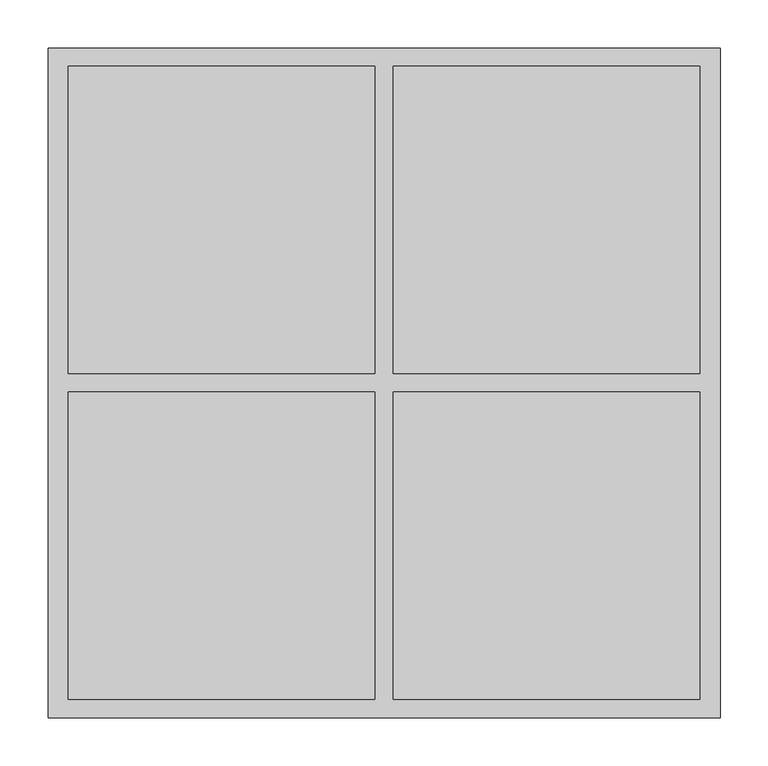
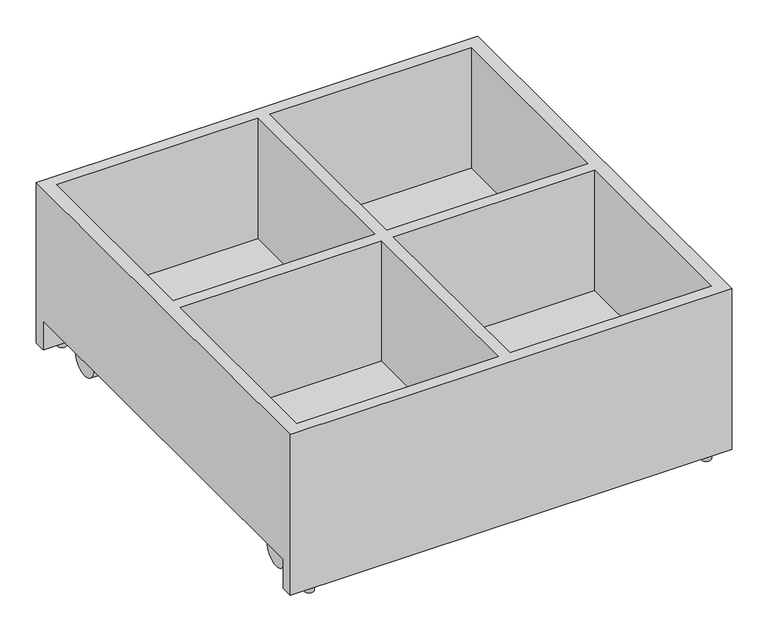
"""IFC4 building model written with IfcOpenShell, lengths in millimetres: furniture geometry, BK Library - Ella - Double Small : BK Library - Ella - Double Small."""

from ifc_helpers import new_model, si_unit, point, frame, frame_2d, origin, place, context, project, spatial, polyline, circle_curve, trimmed, segment, composite_curve, outline, extrude, faceted_brep, source, transform, mapped, element, save
from ifc_brep_helpers import plane_surface, cylinder_surface, advanced_brep


def furniture_43385f6e(model_context):
    return source(origin(), model_context, "Body", "SolidModel", [
        extrude(outline(composite_curve([segment(polyline([(-315.0, 300.0), (-283.0, 300.0)]), True, "CONTINUOUS"), segment(trimmed(circle_curve(frame_2d((-283.0, 295.0)), 5.0), [point((-283.0, 300.0))], [point((-278.0, 295.0))], False, "CARTESIAN"), True, "CONTINUOUS"), segment(polyline([(-278.0, 295.0), (-278.0, 263.0)]), True, "CONTINUOUS"), segment(trimmed(circle_curve(frame_2d((-283.0, 263.0)), 5.0), [point((-278.0, 263.0))], [point((-283.0, 258.0))], False, "CARTESIAN"), True, "CONTINUOUS"), segment(polyline([(-283.0, 258.0), (-315.0, 258.0)]), True, "CONTINUOUS"), segment(trimmed(circle_curve(frame_2d((-315.0, 263.0)), 5.0), [point((-315.0, 258.0))], [point((-320.0, 263.0))], False, "CARTESIAN"), True, "CONTINUOUS"), segment(polyline([(-320.0, 263.0), (-320.0, 295.0)]), True, "CONTINUOUS"), segment(trimmed(circle_curve(frame_2d((-315.0, 295.0)), 5.0), [point((-320.0, 295.0))], [point((-315.0, 300.0))], False, "CARTESIAN"), True, "CONTINUOUS")], self_intersect=False)), frame((0.0, 0.0, 57.5227299), z_axis=(0.0, 0.0, 1.0), x_axis=(1.0, 0.0, 0.0)), (0.0, 0.0, 1.0), 3.0),
        extrude(outline(composite_curve([segment(trimmed(circle_curve(frame_2d((315.0, 295.0)), 5.0), [point((315.0, 300.0))], [point((320.0, 295.0))], False, "CARTESIAN"), True, "CONTINUOUS"), segment(polyline([(320.0, 295.0), (320.0, 263.0)]), True, "CONTINUOUS"), segment(trimmed(circle_curve(frame_2d((315.0, 263.0)), 5.0), [point((320.0, 263.0))], [point((315.0, 258.0))], False, "CARTESIAN"), True, "CONTINUOUS"), segment(polyline([(315.0, 258.0), (283.0, 258.0)]), True, "CONTINUOUS"), segment(trimmed(circle_curve(frame_2d((283.0, 263.0)), 5.0), [point((283.0, 258.0))], [point((278.0, 263.0))], False, "CARTESIAN"), True, "CONTINUOUS"), segment(polyline([(278.0, 263.0), (278.0, 295.0)]), True, "CONTINUOUS"), segment(trimmed(circle_curve(frame_2d((283.0, 295.0)), 5.0), [point((278.0, 295.0))], [point((283.0, 300.0))], False, "CARTESIAN"), True, "CONTINUOUS"), segment(polyline([(283.0, 300.0), (315.0, 300.0)]), True, "CONTINUOUS")], self_intersect=False)), frame((0.0, 0.0, 57.5227299), z_axis=(0.0, 0.0, 1.0), x_axis=(1.0, 0.0, 0.0)), (0.0, 0.0, 1.0), 3.0),
        extrude(outline(composite_curve([segment(polyline([(315.0, -300.0), (283.0, -300.0)]), True, "CONTINUOUS"), segment(trimmed(circle_curve(frame_2d((283.0, -295.0)), 5.0), [point((283.0, -300.0))], [point((278.0, -295.0))], False, "CARTESIAN"), True, "CONTINUOUS"), segment(polyline([(278.0, -295.0), (278.0, -263.0)]), True, "CONTINUOUS"), segment(trimmed(circle_curve(frame_2d((283.0, -263.0)), 5.0), [point((278.0, -263.0))], [point((283.0, -258.0))], False, "CARTESIAN"), True, "CONTINUOUS"), segment(polyline([(283.0, -258.0), (315.0, -258.0)]), True, "CONTINUOUS"), segment(trimmed(circle_curve(frame_2d((315.0, -263.0)), 5.0), [point((315.0, -258.0))], [point((320.0, -263.0))], False, "CARTESIAN"), True, "CONTINUOUS"), segment(polyline([(320.0, -263.0), (320.0, -295.0)]), True, "CONTINUOUS"), segment(trimmed(circle_curve(frame_2d((315.0, -295.0)), 5.0), [point((320.0, -295.0))], [point((315.0, -300.0))], False, "CARTESIAN"), True, "CONTINUOUS")], self_intersect=False)), frame((0.0, 0.0, 57.5227299), z_axis=(0.0, 0.0, 1.0), x_axis=(1.0, 0.0, 0.0)), (0.0, 0.0, 1.0), 3.0),
        extrude(outline(composite_curve([segment(trimmed(circle_curve(frame_2d((-315.0, -295.0)), 5.0), [point((-315.0, -300.0))], [point((-320.0, -295.0))], False, "CARTESIAN"), True, "CONTINUOUS"), segment(polyline([(-320.0, -295.0), (-320.0, -263.0)]), True, "CONTINUOUS"), segment(trimmed(circle_curve(frame_2d((-315.0, -263.0)), 5.0), [point((-320.0, -263.0))], [point((-315.0, -258.0))], False, "CARTESIAN"), True, "CONTINUOUS"), segment(polyline([(-315.0, -258.0), (-283.0, -258.0)]), True, "CONTINUOUS"), segment(trimmed(circle_curve(frame_2d((-283.0, -263.0)), 5.0), [point((-283.0, -258.0))], [point((-278.0, -263.0))], False, "CARTESIAN"), True, "CONTINUOUS"), segment(polyline([(-278.0, -263.0), (-278.0, -295.0)]), True, "CONTINUOUS"), segment(trimmed(circle_curve(frame_2d((-283.0, -295.0)), 5.0), [point((-278.0, -295.0))], [point((-283.0, -300.0))], False, "CARTESIAN"), True, "CONTINUOUS"), segment(polyline([(-283.0, -300.0), (-315.0, -300.0)]), True, "CONTINUOUS")], self_intersect=False)), frame((0.0, 0.0, 57.5227299), z_axis=(0.0, 0.0, 1.0), x_axis=(1.0, 0.0, 0.0)), (0.0, 0.0, 1.0), 3.0),
        extrude(outline(composite_curve([segment(trimmed(circle_curve(frame_2d((-315.0699503, -339.5817688)), 7.5), [point((-322.5699503, -339.5817688))], [point((-307.5699503, -339.5817688))], False, "CARTESIAN"), True, "CONTINUOUS"), segment(trimmed(circle_curve(frame_2d((-315.0699503, -339.5817688)), 7.5), [point((-307.5699503, -339.5817688))], [point((-322.5699503, -339.5817688))], False, "CARTESIAN"), True, "CONTINUOUS")], self_intersect=False)), frame((0.0, 0.0, 3.0227299), z_axis=(0.0, 0.0, 1.0), x_axis=(1.0, 0.0, 0.0)), (0.0, 0.0, 1.0), 8.5),
        extrude(outline(composite_curve([segment(trimmed(circle_curve(frame_2d((315.0699503, -339.5817688)), 7.5), [point((307.5699503, -339.5817688))], [point((322.5699503, -339.5817688))], False, "CARTESIAN"), True, "CONTINUOUS"), segment(trimmed(circle_curve(frame_2d((315.0699503, -339.5817688)), 7.5), [point((322.5699503, -339.5817688))], [point((307.5699503, -339.5817688))], False, "CARTESIAN"), True, "CONTINUOUS")], self_intersect=False)), frame((0.0, 0.0, 3.0227299), z_axis=(0.0, 0.0, 1.0), x_axis=(1.0, 0.0, 0.0)), (0.0, 0.0, 1.0), 8.5),
        extrude(outline(composite_curve([segment(trimmed(circle_curve(frame_2d((-315.0699503, 339.5817688)), 7.5), [point((-322.5699503, 339.5817688))], [point((-307.5699503, 339.5817688))], False, "CARTESIAN"), True, "CONTINUOUS"), segment(trimmed(circle_curve(frame_2d((-315.0699503, 339.5817688)), 7.5), [point((-307.5699503, 339.5817688))], [point((-322.5699503, 339.5817688))], False, "CARTESIAN"), True, "CONTINUOUS")], self_intersect=False)), frame((0.0, 0.0, 3.0227299), z_axis=(0.0, 0.0, 1.0), x_axis=(1.0, 0.0, 0.0)), (0.0, 0.0, 1.0), 8.5),
        extrude(outline(composite_curve([segment(trimmed(circle_curve(frame_2d((315.0699503, 339.5817688)), 7.5), [point((307.5699503, 339.5817688))], [point((322.5699503, 339.5817688))], False, "CARTESIAN"), True, "CONTINUOUS"), segment(trimmed(circle_curve(frame_2d((315.0699503, 339.5817688)), 7.5), [point((322.5699503, 339.5817688))], [point((307.5699503, 339.5817688))], False, "CARTESIAN"), True, "CONTINUOUS")], self_intersect=False)), frame((0.0, 0.0, 3.0227299), z_axis=(0.0, 0.0, 1.0), x_axis=(1.0, 0.0, 0.0)), (0.0, 0.0, 1.0), 8.5),
        faceted_brep([(-329.0, 330.0, 79.5227299), (-329.0, 330.0, 281.5227299), (-329.0, 9.5, 281.5227299), (-329.0, 9.5, 79.5227299), (-329.0, -330.0, 281.5227299), (-329.0, -330.0, 79.5227299), (-329.0, -9.5, 79.5227299), (-329.0, -9.5, 281.5227299), (-350.0, 330.0, 60.5227299), (-350.0, -330.0, 60.5227299), (-350.0, -330.0, 11.5227299), (-350.0, -349.0, 11.5227299), (-350.0, -349.0, 281.5227299), (-350.0, 349.0, 281.5227299), (-350.0, 349.0, 11.5227299), (-350.0, 330.0, 11.5227299), (350.0, 330.0, 60.5227299), (350.0, -330.0, 60.5227299), (350.0, 349.0, 281.5227299), (350.0, -349.0, 281.5227299), (-9.5, 330.0, 281.5227299), (-9.5, 9.5, 281.5227299), (-9.5, -9.5, 281.5227299), (-9.5, -330.0, 281.5227299), (329.0, -330.0, 281.5227299), (9.5, -330.0, 281.5227299), (9.5, -9.5, 281.5227299), (329.0, -9.5, 281.5227299), (329.0, 330.0, 281.5227299), (329.0, 9.5, 281.5227299), (9.5, 9.5, 281.5227299), (9.5, 330.0, 281.5227299), (350.0, 330.0, 11.5227299), (350.0, 349.0, 11.5227299), (350.0, -349.0, 11.5227299), (350.0, -330.0, 11.5227299), (-9.5, 330.0, 79.5227299), (329.0, 330.0, 79.5227299), (9.5, 330.0, 79.5227299), (329.0, 9.5, 79.5227299), (329.0, -330.0, 79.5227299), (329.0, -9.5, 79.5227299), (-9.5, 9.5, 79.5227299), (-9.5, -330.0, 79.5227299), (-9.5, -9.5, 79.5227299), (9.5, 9.5, 79.5227299), (9.5, -9.5, 79.5227299), (9.5, -330.0, 79.5227299)], [[[0, 1, 2, 3]], [[4, 5, 6, 7]], [[8, 9, 10, 11, 12, 13, 14, 15]], [[9, 8, 16, 17]], [[18, 13, 12, 19], [2, 1, 20, 21], [4, 7, 22, 23], [24, 25, 26, 27], [28, 29, 30, 31]], [[32, 33, 18, 19, 34, 35, 17, 16]], [[1, 0, 36, 20]], [[15, 32, 16, 8]], [[37, 28, 31, 38]], [[33, 32, 15, 14]], [[18, 33, 14, 13]], [[28, 37, 39, 29]], [[40, 24, 27, 41]], [[0, 3, 42, 36]], [[6, 5, 43, 44]], [[37, 38, 45, 39]], [[40, 41, 46, 47]], [[5, 4, 23, 43]], [[24, 40, 47, 25]], [[35, 10, 9, 17]], [[35, 34, 11, 10]], [[34, 19, 12, 11]], [[2, 21, 42, 3]], [[22, 7, 6, 44]], [[23, 22, 44, 43]], [[26, 25, 47, 46]], [[27, 26, 46, 41]], [[30, 29, 39, 45]], [[31, 30, 45, 38]], [[21, 20, 36, 42]]]),
        advanced_brep(
        [(-288.2, 259.8173932, 49.2436315), (-309.8, 259.8173932, 49.2436315), (-309.8, 237.8179223, 24.4243482), (-309.8, 239.7779412, 14.7207782), (-288.2, 239.7779412, 14.7207782), (-288.2, 237.8179223, 24.4243482), (-288.2, 259.8173932, 49.7207782), (-309.8, 259.8173932, 49.7207782), (-288.2, 280.4771182, 49.7207782), (-309.8, 280.4771182, 49.7207782), (-309.8, 280.4771182, 14.7207782), (-288.2, 280.4771182, 14.7207782)],
        [
            (0, 1),
            (1, 2, circle_curve(frame((-309.8, 262.8179223, 24.4243482), z_axis=(1.0, 0.0, 0.0), x_axis=(0.0, 1.0, 0.0)), 25.0)),
            (2, 3, circle_curve(frame((-309.8, 262.8179223, 24.4243482), z_axis=(1.0, 0.0, 0.0), x_axis=(0.0, 1.0, 0.0)), 25.0)),
            (3, 4),
            (4, 5, circle_curve(frame((-288.2, 262.8179223, 24.4243482), z_axis=(-1.0, 0.0, 0.0), x_axis=(0.0, 1.0, 0.0)), 25.0)),
            (5, 0, circle_curve(frame((-288.2, 262.8179223, 24.4243482), z_axis=(-1.0, 0.0, 0.0), x_axis=(0.0, 1.0, 0.0)), 25.0)),
            (0, 6),
            (6, 7),
            (7, 1),
            (8, 9, circle_curve(frame((-299.0, 278.3890569, 49.7207782), z_axis=(0.0, 0.0, 1.0), x_axis=(1.0, 0.0, 0.0)), 11.0)),
            (9, 7),
            (6, 8),
            (10, 11, circle_curve(frame((-299.0, 278.3890569, 14.7207782), z_axis=(0.0, 0.0, -1.0), x_axis=(1.0, 0.0, 0.0)), 11.0)),
            (11, 4),
            (3, 10),
            (9, 10),
            (11, 8),
        ],
        [
            cylinder_surface(frame((-324.3021081, 262.8179223, 24.4243482), z_axis=(-1.0, 0.0, 0.0), x_axis=(0.0, 1.0, 0.0)), 25.0),
            plane_surface(frame((-256.1806068, 259.8173932, 49.2436315), z_axis=(0.0, -1.0, 0.0), x_axis=(-1.0, 0.0, 0.0))),
            plane_surface(frame((-309.8, 237.8179223, 49.7207782), z_axis=(0.0, 0.0, 1.0), x_axis=(0.0, -1.0, 0.0))),
            plane_surface(frame((-309.8, 237.8179223, 14.7207782), z_axis=(0.0, 0.0, -1.0), x_axis=(0.0, 1.0, 0.0))),
            plane_surface(frame((-309.8, 280.4771182, 49.7207782), z_axis=(-1.0, 0.0, 0.0), x_axis=(0.0, 0.0, -1.0))),
            plane_surface(frame((-288.2, 237.8179223, 49.7207782), z_axis=(1.0, 0.0, 0.0), x_axis=(0.0, 0.0, -1.0))),
            cylinder_surface(frame((-299.0, 278.3890569, 14.7207782), z_axis=(0.0, 0.0, 1.0), x_axis=(1.0, 0.0, 0.0)), 11.0),
        ],
        [
            (0, [[1, 2, 3, 4, 5, 6]]),
            (1, [[-1, 7, 8, 9]]),
            (2, [[10, 11, -8, 12]]),
            (3, [[13, 14, -4, 15]]),
            (4, [[16, -15, -3, -2, -9, -11]]),
            (5, [[17, -12, -7, -6, -5, -14]]),
            (6, [[-10, -17, -13, -16]]),
        ],
    ),
        advanced_brep(
        [(-309.8, 237.8179223, 24.4243482), (-309.8, 239.7779412, 14.7207782), (-309.8, 287.8179223, 24.4243482), (-309.8, 259.8173932, 49.2436315), (-322.8, 237.8179223, 24.4243482), (-322.8, 259.8173932, 49.2436315), (-322.8, 287.8179223, 24.4243482), (-322.8, 239.7779412, 14.7207782)],
        [
            (0, 1, circle_curve(frame((-309.8, 262.8179223, 24.4243482), z_axis=(1.0, 0.0, 0.0), x_axis=(0.0, 1.0, 0.0)), 25.0)),
            (1, 2, circle_curve(frame((-309.8, 262.8179223, 24.4243482), z_axis=(1.0, 0.0, 0.0), x_axis=(0.0, 1.0, 0.0)), 25.0)),
            (2, 3, circle_curve(frame((-309.8, 262.8179223, 24.4243482), z_axis=(1.0, 0.0, 0.0), x_axis=(0.0, 1.0, 0.0)), 25.0)),
            (3, 0, circle_curve(frame((-309.8, 262.8179223, 24.4243482), z_axis=(1.0, 0.0, 0.0), x_axis=(0.0, 1.0, 0.0)), 25.0)),
            (4, 5, circle_curve(frame((-322.8, 262.8179223, 24.4243482), z_axis=(-1.0, 0.0, 0.0), x_axis=(0.0, 1.0, 0.0)), 25.0)),
            (5, 6, circle_curve(frame((-322.8, 262.8179223, 24.4243482), z_axis=(-1.0, 0.0, 0.0), x_axis=(0.0, 1.0, 0.0)), 25.0)),
            (6, 7, circle_curve(frame((-322.8, 262.8179223, 24.4243482), z_axis=(-1.0, 0.0, 0.0), x_axis=(0.0, 1.0, 0.0)), 25.0)),
            (7, 4, circle_curve(frame((-322.8, 262.8179223, 24.4243482), z_axis=(-1.0, 0.0, 0.0), x_axis=(0.0, 1.0, 0.0)), 25.0)),
            (0, 4),
            (6, 2),
        ],
        [
            plane_surface(frame((-309.8, 287.8179223, 24.4243482), z_axis=(1.0, 0.0, 0.0), x_axis=(0.0, 0.0, 1.0))),
            plane_surface(frame((-322.8, 287.8179223, 24.4243482), z_axis=(-1.0, 0.0, 0.0), x_axis=(0.0, 0.0, -1.0))),
            cylinder_surface(frame((-322.8, 262.8179223, 24.4243482), z_axis=(1.0, 0.0, 0.0), x_axis=(0.0, 1.0, 0.0)), 25.0),
        ],
        [
            (0, [[1, 2, 3, 4]]),
            (1, [[5, 6, 7, 8]]),
            (2, [[9, -8, -7, 10, -2, -1]]),
            (2, [[-9, -4, -3, -10, -6, -5]]),
        ],
    ),
        advanced_brep(
        [(-275.2, 237.8179223, 24.4243482), (-275.2, 239.7779412, 14.7207782), (-275.2, 287.8179223, 24.4243482), (-275.2, 259.8173932, 49.2436315), (-288.2, 237.8179223, 24.4243482), (-288.2, 259.8173932, 49.2436315), (-288.2, 287.8179223, 24.4243482), (-288.2, 239.7779412, 14.7207782)],
        [
            (0, 1, circle_curve(frame((-275.2, 262.8179223, 24.4243482), z_axis=(1.0, 0.0, 0.0), x_axis=(0.0, 1.0, 0.0)), 25.0)),
            (1, 2, circle_curve(frame((-275.2, 262.8179223, 24.4243482), z_axis=(1.0, 0.0, 0.0), x_axis=(0.0, 1.0, 0.0)), 25.0)),
            (2, 3, circle_curve(frame((-275.2, 262.8179223, 24.4243482), z_axis=(1.0, 0.0, 0.0), x_axis=(0.0, 1.0, 0.0)), 25.0)),
            (3, 0, circle_curve(frame((-275.2, 262.8179223, 24.4243482), z_axis=(1.0, 0.0, 0.0), x_axis=(0.0, 1.0, 0.0)), 25.0)),
            (4, 5, circle_curve(frame((-288.2, 262.8179223, 24.4243482), z_axis=(-1.0, 0.0, 0.0), x_axis=(0.0, 1.0, 0.0)), 25.0)),
            (5, 6, circle_curve(frame((-288.2, 262.8179223, 24.4243482), z_axis=(-1.0, 0.0, 0.0), x_axis=(0.0, 1.0, 0.0)), 25.0)),
            (6, 7, circle_curve(frame((-288.2, 262.8179223, 24.4243482), z_axis=(-1.0, 0.0, 0.0), x_axis=(0.0, 1.0, 0.0)), 25.0)),
            (7, 4, circle_curve(frame((-288.2, 262.8179223, 24.4243482), z_axis=(-1.0, 0.0, 0.0), x_axis=(0.0, 1.0, 0.0)), 25.0)),
            (0, 4),
            (6, 2),
        ],
        [
            plane_surface(frame((-275.2, 287.8179223, 24.4243482), z_axis=(1.0, 0.0, 0.0), x_axis=(0.0, 0.0, 1.0))),
            plane_surface(frame((-288.2, 287.8179223, 24.4243482), z_axis=(-1.0, 0.0, 0.0), x_axis=(0.0, 0.0, -1.0))),
            cylinder_surface(frame((-288.2, 262.8179223, 24.4243482), z_axis=(1.0, 0.0, 0.0), x_axis=(0.0, 1.0, 0.0)), 25.0),
        ],
        [
            (0, [[1, 2, 3, 4]]),
            (1, [[5, 6, 7, 8]]),
            (2, [[9, -8, -7, 10, -2, -1]]),
            (2, [[-9, -4, -3, -10, -6, -5]]),
        ],
    ),
        extrude(outline(composite_curve([segment(trimmed(circle_curve(frame_2d((-299.0, 278.3890569)), 6.9282032), [point((-305.9282032, 278.3890569))], [point((-292.0717968, 278.3890569))], False, "CARTESIAN"), True, "CONTINUOUS"), segment(trimmed(circle_curve(frame_2d((-299.0, 278.3890569)), 6.9282032), [point((-292.0717968, 278.3890569))], [point((-305.9282032, 278.3890569))], False, "CARTESIAN"), True, "CONTINUOUS")], self_intersect=False)), frame((0.0, 0.0, 49.6626048), z_axis=(0.0, 0.0, 1.0), x_axis=(1.0, 0.0, 0.0)), (0.0, 0.0, 1.0), 7.860125),
        advanced_brep(
        [(309.8, 259.8173932, 49.2436315), (288.2, 259.8173932, 49.2436315), (288.2, 237.8179223, 24.4243482), (288.2, 239.7779412, 14.7207782), (309.8, 239.7779412, 14.7207782), (309.8, 237.8179223, 24.4243482), (309.8, 259.8173932, 49.7207782), (288.2, 259.8173932, 49.7207782), (309.8, 280.4771182, 49.7207782), (288.2, 280.4771182, 49.7207782), (288.2, 280.4771182, 14.7207782), (309.8, 280.4771182, 14.7207782)],
        [
            (0, 1),
            (1, 2, circle_curve(frame((288.2, 262.8179223, 24.4243482), z_axis=(1.0, 0.0, 0.0), x_axis=(0.0, 1.0, 0.0)), 25.0)),
            (2, 3, circle_curve(frame((288.2, 262.8179223, 24.4243482), z_axis=(1.0, 0.0, 0.0), x_axis=(0.0, 1.0, 0.0)), 25.0)),
            (3, 4),
            (4, 5, circle_curve(frame((309.8, 262.8179223, 24.4243482), z_axis=(-1.0, 0.0, 0.0), x_axis=(0.0, 1.0, 0.0)), 25.0)),
            (5, 0, circle_curve(frame((309.8, 262.8179223, 24.4243482), z_axis=(-1.0, 0.0, 0.0), x_axis=(0.0, 1.0, 0.0)), 25.0)),
            (0, 6),
            (6, 7),
            (7, 1),
            (8, 9, circle_curve(frame((299.0, 278.3890569, 49.7207782), z_axis=(0.0, 0.0, 1.0), x_axis=(-1.0, 0.0, 0.0)), 11.0)),
            (9, 7),
            (6, 8),
            (10, 11, circle_curve(frame((299.0, 278.3890569, 14.7207782), z_axis=(0.0, 0.0, -1.0), x_axis=(-1.0, 0.0, 0.0)), 11.0)),
            (11, 4),
            (3, 10),
            (11, 8),
            (9, 10),
        ],
        [
            cylinder_surface(frame((324.3021081, 262.8179223, 24.4243482), z_axis=(1.0, 0.0, 0.0), x_axis=(0.0, 1.0, 0.0)), 25.0),
            plane_surface(frame((256.1806068, 259.8173932, 52.6286982), z_axis=(0.0, -1.0, 0.0), x_axis=(1.0, 0.0, 0.0))),
            plane_surface(frame((288.0, 278.3890569, 49.7207782), z_axis=(0.0, 0.0, 1.0), x_axis=(0.0, -1.0, 0.0))),
            plane_surface(frame((288.0, 278.3890569, 14.7207782), z_axis=(0.0, 0.0, -1.0), x_axis=(0.0, 1.0, 0.0))),
            plane_surface(frame((309.8, 237.8179223, 49.7207782), z_axis=(1.0, 0.0, 0.0), x_axis=(0.0, 0.0, -1.0))),
            plane_surface(frame((288.2, 280.4771182, 49.7207782), z_axis=(-1.0, 0.0, 0.0), x_axis=(0.0, 0.0, -1.0))),
            cylinder_surface(frame((299.0, 278.3890569, 14.7207782), z_axis=(0.0, 0.0, 1.0), x_axis=(-1.0, 0.0, 0.0)), 11.0),
        ],
        [
            (0, [[1, 2, 3, 4, 5, 6]]),
            (1, [[-1, 7, 8, 9]]),
            (2, [[10, 11, -8, 12]]),
            (3, [[13, 14, -4, 15]]),
            (4, [[16, -12, -7, -6, -5, -14]]),
            (5, [[17, -15, -3, -2, -9, -11]]),
            (6, [[-10, -16, -13, -17]]),
        ],
    ),
        advanced_brep(
        [(309.8, 237.8179223, 24.4243482), (309.8, 259.8173932, 49.2436315), (309.8, 287.8179223, 24.4243482), (309.8, 239.7779412, 14.7207782), (322.8, 237.8179223, 24.4243482), (322.8, 239.7779412, 14.7207782), (322.8, 287.8179223, 24.4243482), (322.8, 259.8173932, 49.2436315)],
        [
            (0, 1, circle_curve(frame((309.8, 262.8179223, 24.4243482), z_axis=(-1.0, 0.0, 0.0), x_axis=(0.0, 1.0, 0.0)), 25.0)),
            (1, 2, circle_curve(frame((309.8, 262.8179223, 24.4243482), z_axis=(-1.0, 0.0, 0.0), x_axis=(0.0, 1.0, 0.0)), 25.0)),
            (2, 3, circle_curve(frame((309.8, 262.8179223, 24.4243482), z_axis=(-1.0, 0.0, 0.0), x_axis=(0.0, 1.0, 0.0)), 25.0)),
            (3, 0, circle_curve(frame((309.8, 262.8179223, 24.4243482), z_axis=(-1.0, 0.0, 0.0), x_axis=(0.0, 1.0, 0.0)), 25.0)),
            (4, 5, circle_curve(frame((322.8, 262.8179223, 24.4243482), z_axis=(1.0, 0.0, 0.0), x_axis=(0.0, 1.0, 0.0)), 25.0)),
            (5, 6, circle_curve(frame((322.8, 262.8179223, 24.4243482), z_axis=(1.0, 0.0, 0.0), x_axis=(0.0, 1.0, 0.0)), 25.0)),
            (6, 7, circle_curve(frame((322.8, 262.8179223, 24.4243482), z_axis=(1.0, 0.0, 0.0), x_axis=(0.0, 1.0, 0.0)), 25.0)),
            (7, 4, circle_curve(frame((322.8, 262.8179223, 24.4243482), z_axis=(1.0, 0.0, 0.0), x_axis=(0.0, 1.0, 0.0)), 25.0)),
            (2, 6),
            (4, 0),
        ],
        [
            plane_surface(frame((309.8, 287.8179223, 24.4243482), z_axis=(-1.0, 0.0, 0.0), x_axis=(0.0, 0.0, -1.0))),
            plane_surface(frame((322.8, 287.8179223, 24.4243482), z_axis=(1.0, 0.0, 0.0), x_axis=(0.0, 0.0, 1.0))),
            cylinder_surface(frame((322.8, 262.8179223, 24.4243482), z_axis=(-1.0, 0.0, 0.0), x_axis=(0.0, 1.0, 0.0)), 25.0),
        ],
        [
            (0, [[1, 2, 3, 4]]),
            (1, [[5, 6, 7, 8]]),
            (2, [[9, -6, -5, 10, -4, -3]]),
            (2, [[-9, -2, -1, -10, -8, -7]]),
        ],
    ),
        advanced_brep(
        [(275.2, 237.8179223, 24.4243482), (275.2, 259.8173932, 49.2436315), (275.2, 287.8179223, 24.4243482), (275.2, 239.7779412, 14.7207782), (288.2, 237.8179223, 24.4243482), (288.2, 239.7779412, 14.7207782), (288.2, 287.8179223, 24.4243482), (288.2, 259.8173932, 49.2436315)],
        [
            (0, 1, circle_curve(frame((275.2, 262.8179223, 24.4243482), z_axis=(-1.0, 0.0, 0.0), x_axis=(0.0, 1.0, 0.0)), 25.0)),
            (1, 2, circle_curve(frame((275.2, 262.8179223, 24.4243482), z_axis=(-1.0, 0.0, 0.0), x_axis=(0.0, 1.0, 0.0)), 25.0)),
            (2, 3, circle_curve(frame((275.2, 262.8179223, 24.4243482), z_axis=(-1.0, 0.0, 0.0), x_axis=(0.0, 1.0, 0.0)), 25.0)),
            (3, 0, circle_curve(frame((275.2, 262.8179223, 24.4243482), z_axis=(-1.0, 0.0, 0.0), x_axis=(0.0, 1.0, 0.0)), 25.0)),
            (4, 5, circle_curve(frame((288.2, 262.8179223, 24.4243482), z_axis=(1.0, 0.0, 0.0), x_axis=(0.0, 1.0, 0.0)), 25.0)),
            (5, 6, circle_curve(frame((288.2, 262.8179223, 24.4243482), z_axis=(1.0, 0.0, 0.0), x_axis=(0.0, 1.0, 0.0)), 25.0)),
            (6, 7, circle_curve(frame((288.2, 262.8179223, 24.4243482), z_axis=(1.0, 0.0, 0.0), x_axis=(0.0, 1.0, 0.0)), 25.0)),
            (7, 4, circle_curve(frame((288.2, 262.8179223, 24.4243482), z_axis=(1.0, 0.0, 0.0), x_axis=(0.0, 1.0, 0.0)), 25.0)),
            (2, 6),
            (4, 0),
        ],
        [
            plane_surface(frame((275.2, 287.8179223, 24.4243482), z_axis=(-1.0, 0.0, 0.0), x_axis=(0.0, 0.0, -1.0))),
            plane_surface(frame((288.2, 287.8179223, 24.4243482), z_axis=(1.0, 0.0, 0.0), x_axis=(0.0, 0.0, 1.0))),
            cylinder_surface(frame((288.2, 262.8179223, 24.4243482), z_axis=(-1.0, 0.0, 0.0), x_axis=(0.0, 1.0, 0.0)), 25.0),
        ],
        [
            (0, [[1, 2, 3, 4]]),
            (1, [[5, 6, 7, 8]]),
            (2, [[9, -6, -5, 10, -4, -3]]),
            (2, [[-9, -2, -1, -10, -8, -7]]),
        ],
    ),
        extrude(outline(composite_curve([segment(trimmed(circle_curve(frame_2d((299.0, 278.3890569)), 6.9282032), [point((305.9282032, 278.3890569))], [point((292.0717968, 278.3890569))], False, "CARTESIAN"), True, "CONTINUOUS"), segment(trimmed(circle_curve(frame_2d((299.0, 278.3890569)), 6.9282032), [point((292.0717968, 278.3890569))], [point((305.9282032, 278.3890569))], False, "CARTESIAN"), True, "CONTINUOUS")], self_intersect=False)), frame((0.0, 0.0, 49.6626048), z_axis=(0.0, 0.0, 1.0), x_axis=(1.0, 0.0, 0.0)), (0.0, 0.0, 1.0), 7.860125),
        advanced_brep(
        [(288.2, -259.8173932, 49.2436315), (309.8, -259.8173932, 49.2436315), (309.8, -237.8179223, 24.4243482), (309.8, -239.7779412, 14.7207782), (288.2, -239.7779412, 14.7207782), (288.2, -237.8179223, 24.4243482), (288.2, -259.8173932, 49.7207782), (309.8, -259.8173932, 49.7207782), (288.2, -280.4771182, 49.7207782), (309.8, -280.4771182, 49.7207782), (309.8, -280.4771182, 14.7207782), (288.2, -280.4771182, 14.7207782)],
        [
            (0, 1),
            (1, 2, circle_curve(frame((309.8, -262.8179223, 24.4243482), z_axis=(-1.0, 0.0, 0.0), x_axis=(0.0, -1.0, 0.0)), 25.0)),
            (2, 3, circle_curve(frame((309.8, -262.8179223, 24.4243482), z_axis=(-1.0, 0.0, 0.0), x_axis=(0.0, -1.0, 0.0)), 25.0)),
            (3, 4),
            (4, 5, circle_curve(frame((288.2, -262.8179223, 24.4243482), z_axis=(1.0, 0.0, 0.0), x_axis=(0.0, -1.0, 0.0)), 25.0)),
            (5, 0, circle_curve(frame((288.2, -262.8179223, 24.4243482), z_axis=(1.0, 0.0, 0.0), x_axis=(0.0, -1.0, 0.0)), 25.0)),
            (0, 6),
            (6, 7),
            (7, 1),
            (8, 9, circle_curve(frame((299.0, -278.3890569, 49.7207782), z_axis=(0.0, 0.0, 1.0), x_axis=(-1.0, 0.0, 0.0)), 11.0)),
            (9, 7),
            (6, 8),
            (10, 11, circle_curve(frame((299.0, -278.3890569, 14.7207782), z_axis=(0.0, 0.0, -1.0), x_axis=(-1.0, 0.0, 0.0)), 11.0)),
            (11, 4),
            (3, 10),
            (9, 10),
            (11, 8),
        ],
        [
            cylinder_surface(frame((324.3021081, -262.8179223, 24.4243482), z_axis=(1.0, 0.0, 0.0), x_axis=(0.0, -1.0, 0.0)), 25.0),
            plane_surface(frame((256.1806068, -259.8173932, 49.2436315), z_axis=(0.0, 1.0, 0.0), x_axis=(1.0, 0.0, 0.0))),
            plane_surface(frame((309.8, -237.8179223, 49.7207782), z_axis=(0.0, 0.0, 1.0), x_axis=(0.0, 1.0, 0.0))),
            plane_surface(frame((309.8, -237.8179223, 14.7207782), z_axis=(0.0, 0.0, -1.0), x_axis=(0.0, -1.0, 0.0))),
            plane_surface(frame((309.8, -280.4771182, 49.7207782), z_axis=(1.0, 0.0, 0.0), x_axis=(0.0, 0.0, -1.0))),
            plane_surface(frame((288.2, -237.8179223, 49.7207782), z_axis=(-1.0, 0.0, 0.0), x_axis=(0.0, 0.0, -1.0))),
            cylinder_surface(frame((299.0, -278.3890569, 14.7207782), z_axis=(0.0, 0.0, 1.0), x_axis=(-1.0, 0.0, 0.0)), 11.0),
        ],
        [
            (0, [[1, 2, 3, 4, 5, 6]]),
            (1, [[-1, 7, 8, 9]]),
            (2, [[10, 11, -8, 12]]),
            (3, [[13, 14, -4, 15]]),
            (4, [[16, -15, -3, -2, -9, -11]]),
            (5, [[17, -12, -7, -6, -5, -14]]),
            (6, [[-10, -17, -13, -16]]),
        ],
    ),
        advanced_brep(
        [(309.8, -237.8179223, 24.4243482), (309.8, -239.7779412, 14.7207782), (309.8, -287.8179223, 24.4243482), (309.8, -259.8173932, 49.2436315), (322.8, -237.8179223, 24.4243482), (322.8, -259.8173932, 49.2436315), (322.8, -287.8179223, 24.4243482), (322.8, -239.7779412, 14.7207782)],
        [
            (0, 1, circle_curve(frame((309.8, -262.8179223, 24.4243482), z_axis=(-1.0, 0.0, 0.0), x_axis=(0.0, -1.0, 0.0)), 25.0)),
            (1, 2, circle_curve(frame((309.8, -262.8179223, 24.4243482), z_axis=(-1.0, 0.0, 0.0), x_axis=(0.0, -1.0, 0.0)), 25.0)),
            (2, 3, circle_curve(frame((309.8, -262.8179223, 24.4243482), z_axis=(-1.0, 0.0, 0.0), x_axis=(0.0, -1.0, 0.0)), 25.0)),
            (3, 0, circle_curve(frame((309.8, -262.8179223, 24.4243482), z_axis=(-1.0, 0.0, 0.0), x_axis=(0.0, -1.0, 0.0)), 25.0)),
            (4, 5, circle_curve(frame((322.8, -262.8179223, 24.4243482), z_axis=(1.0, 0.0, 0.0), x_axis=(0.0, -1.0, 0.0)), 25.0)),
            (5, 6, circle_curve(frame((322.8, -262.8179223, 24.4243482), z_axis=(1.0, 0.0, 0.0), x_axis=(0.0, -1.0, 0.0)), 25.0)),
            (6, 7, circle_curve(frame((322.8, -262.8179223, 24.4243482), z_axis=(1.0, 0.0, 0.0), x_axis=(0.0, -1.0, 0.0)), 25.0)),
            (7, 4, circle_curve(frame((322.8, -262.8179223, 24.4243482), z_axis=(1.0, 0.0, 0.0), x_axis=(0.0, -1.0, 0.0)), 25.0)),
            (0, 4),
            (6, 2),
        ],
        [
            plane_surface(frame((309.8, -287.8179223, 24.4243482), z_axis=(-1.0, 0.0, 0.0), x_axis=(0.0, 0.0, 1.0))),
            plane_surface(frame((322.8, -287.8179223, 24.4243482), z_axis=(1.0, 0.0, 0.0), x_axis=(0.0, 0.0, -1.0))),
            cylinder_surface(frame((322.8, -262.8179223, 24.4243482), z_axis=(-1.0, 0.0, 0.0), x_axis=(0.0, -1.0, 0.0)), 25.0),
        ],
        [
            (0, [[1, 2, 3, 4]]),
            (1, [[5, 6, 7, 8]]),
            (2, [[9, -8, -7, 10, -2, -1]]),
            (2, [[-9, -4, -3, -10, -6, -5]]),
        ],
    ),
        advanced_brep(
        [(275.2, -237.8179223, 24.4243482), (275.2, -239.7779412, 14.7207782), (275.2, -287.8179223, 24.4243482), (275.2, -259.8173932, 49.2436315), (288.2, -237.8179223, 24.4243482), (288.2, -259.8173932, 49.2436315), (288.2, -287.8179223, 24.4243482), (288.2, -239.7779412, 14.7207782)],
        [
            (0, 1, circle_curve(frame((275.2, -262.8179223, 24.4243482), z_axis=(-1.0, 0.0, 0.0), x_axis=(0.0, -1.0, 0.0)), 25.0)),
            (1, 2, circle_curve(frame((275.2, -262.8179223, 24.4243482), z_axis=(-1.0, 0.0, 0.0), x_axis=(0.0, -1.0, 0.0)), 25.0)),
            (2, 3, circle_curve(frame((275.2, -262.8179223, 24.4243482), z_axis=(-1.0, 0.0, 0.0), x_axis=(0.0, -1.0, 0.0)), 25.0)),
            (3, 0, circle_curve(frame((275.2, -262.8179223, 24.4243482), z_axis=(-1.0, 0.0, 0.0), x_axis=(0.0, -1.0, 0.0)), 25.0)),
            (4, 5, circle_curve(frame((288.2, -262.8179223, 24.4243482), z_axis=(1.0, 0.0, 0.0), x_axis=(0.0, -1.0, 0.0)), 25.0)),
            (5, 6, circle_curve(frame((288.2, -262.8179223, 24.4243482), z_axis=(1.0, 0.0, 0.0), x_axis=(0.0, -1.0, 0.0)), 25.0)),
            (6, 7, circle_curve(frame((288.2, -262.8179223, 24.4243482), z_axis=(1.0, 0.0, 0.0), x_axis=(0.0, -1.0, 0.0)), 25.0)),
            (7, 4, circle_curve(frame((288.2, -262.8179223, 24.4243482), z_axis=(1.0, 0.0, 0.0), x_axis=(0.0, -1.0, 0.0)), 25.0)),
            (0, 4),
            (6, 2),
        ],
        [
            plane_surface(frame((275.2, -287.8179223, 24.4243482), z_axis=(-1.0, 0.0, 0.0), x_axis=(0.0, 0.0, 1.0))),
            plane_surface(frame((288.2, -287.8179223, 24.4243482), z_axis=(1.0, 0.0, 0.0), x_axis=(0.0, 0.0, -1.0))),
            cylinder_surface(frame((288.2, -262.8179223, 24.4243482), z_axis=(-1.0, 0.0, 0.0), x_axis=(0.0, -1.0, 0.0)), 25.0),
        ],
        [
            (0, [[1, 2, 3, 4]]),
            (1, [[5, 6, 7, 8]]),
            (2, [[9, -8, -7, 10, -2, -1]]),
            (2, [[-9, -4, -3, -10, -6, -5]]),
        ],
    ),
        extrude(outline(composite_curve([segment(trimmed(circle_curve(frame_2d((299.0, -278.3890569)), 6.9282032), [point((305.9282032, -278.3890569))], [point((292.0717968, -278.3890569))], False, "CARTESIAN"), True, "CONTINUOUS"), segment(trimmed(circle_curve(frame_2d((299.0, -278.3890569)), 6.9282032), [point((292.0717968, -278.3890569))], [point((305.9282032, -278.3890569))], False, "CARTESIAN"), True, "CONTINUOUS")], self_intersect=False)), frame((0.0, 0.0, 49.6626048), z_axis=(0.0, 0.0, 1.0), x_axis=(1.0, 0.0, 0.0)), (0.0, 0.0, 1.0), 7.860125),
        advanced_brep(
        [(-309.8, -259.8173932, 49.2436315), (-288.2, -259.8173932, 49.2436315), (-288.2, -237.8179223, 24.4243482), (-288.2, -239.7779412, 14.7207782), (-309.8, -239.7779412, 14.7207782), (-309.8, -237.8179223, 24.4243482), (-309.8, -259.8173932, 49.7207782), (-288.2, -259.8173932, 49.7207782), (-309.8, -280.4771182, 49.7207782), (-288.2, -280.4771182, 49.7207782), (-288.2, -280.4771182, 14.7207782), (-309.8, -280.4771182, 14.7207782)],
        [
            (0, 1),
            (1, 2, circle_curve(frame((-288.2, -262.8179223, 24.4243482), z_axis=(-1.0, 0.0, 0.0), x_axis=(0.0, -1.0, 0.0)), 25.0)),
            (2, 3, circle_curve(frame((-288.2, -262.8179223, 24.4243482), z_axis=(-1.0, 0.0, 0.0), x_axis=(0.0, -1.0, 0.0)), 25.0)),
            (3, 4),
            (4, 5, circle_curve(frame((-309.8, -262.8179223, 24.4243482), z_axis=(1.0, 0.0, 0.0), x_axis=(0.0, -1.0, 0.0)), 25.0)),
            (5, 0, circle_curve(frame((-309.8, -262.8179223, 24.4243482), z_axis=(1.0, 0.0, 0.0), x_axis=(0.0, -1.0, 0.0)), 25.0)),
            (0, 6),
            (6, 7),
            (7, 1),
            (8, 9, circle_curve(frame((-299.0, -278.3890569, 49.7207782), z_axis=(0.0, 0.0, 1.0), x_axis=(1.0, 0.0, 0.0)), 11.0)),
            (9, 7),
            (6, 8),
            (10, 11, circle_curve(frame((-299.0, -278.3890569, 14.7207782), z_axis=(0.0, 0.0, -1.0), x_axis=(1.0, 0.0, 0.0)), 11.0)),
            (11, 4),
            (3, 10),
            (11, 8),
            (9, 10),
        ],
        [
            cylinder_surface(frame((-324.3021081, -262.8179223, 24.4243482), z_axis=(-1.0, 0.0, 0.0), x_axis=(0.0, -1.0, 0.0)), 25.0),
            plane_surface(frame((-256.1806068, -259.8173932, 52.6286982), z_axis=(0.0, 1.0, 0.0), x_axis=(-1.0, 0.0, 0.0))),
            plane_surface(frame((-288.0, -278.3890569, 49.7207782), z_axis=(0.0, 0.0, 1.0), x_axis=(0.0, 1.0, 0.0))),
            plane_surface(frame((-288.0, -278.3890569, 14.7207782), z_axis=(0.0, 0.0, -1.0), x_axis=(0.0, -1.0, 0.0))),
            plane_surface(frame((-309.8, -237.8179223, 49.7207782), z_axis=(-1.0, 0.0, 0.0), x_axis=(0.0, 0.0, -1.0))),
            plane_surface(frame((-288.2, -280.4771182, 49.7207782), z_axis=(1.0, 0.0, 0.0), x_axis=(0.0, 0.0, -1.0))),
            cylinder_surface(frame((-299.0, -278.3890569, 14.7207782), z_axis=(0.0, 0.0, 1.0), x_axis=(1.0, 0.0, 0.0)), 11.0),
        ],
        [
            (0, [[1, 2, 3, 4, 5, 6]]),
            (1, [[-1, 7, 8, 9]]),
            (2, [[10, 11, -8, 12]]),
            (3, [[13, 14, -4, 15]]),
            (4, [[16, -12, -7, -6, -5, -14]]),
            (5, [[17, -15, -3, -2, -9, -11]]),
            (6, [[-10, -16, -13, -17]]),
        ],
    ),
        advanced_brep(
        [(-309.8, -237.8179223, 24.4243482), (-309.8, -259.8173932, 49.2436315), (-309.8, -287.8179223, 24.4243482), (-309.8, -239.7779412, 14.7207782), (-322.8, -237.8179223, 24.4243482), (-322.8, -239.7779412, 14.7207782), (-322.8, -287.8179223, 24.4243482), (-322.8, -259.8173932, 49.2436315)],
        [
            (0, 1, circle_curve(frame((-309.8, -262.8179223, 24.4243482), z_axis=(1.0, 0.0, 0.0), x_axis=(0.0, -1.0, 0.0)), 25.0)),
            (1, 2, circle_curve(frame((-309.8, -262.8179223, 24.4243482), z_axis=(1.0, 0.0, 0.0), x_axis=(0.0, -1.0, 0.0)), 25.0)),
            (2, 3, circle_curve(frame((-309.8, -262.8179223, 24.4243482), z_axis=(1.0, 0.0, 0.0), x_axis=(0.0, -1.0, 0.0)), 25.0)),
            (3, 0, circle_curve(frame((-309.8, -262.8179223, 24.4243482), z_axis=(1.0, 0.0, 0.0), x_axis=(0.0, -1.0, 0.0)), 25.0)),
            (4, 5, circle_curve(frame((-322.8, -262.8179223, 24.4243482), z_axis=(-1.0, 0.0, 0.0), x_axis=(0.0, -1.0, 0.0)), 25.0)),
            (5, 6, circle_curve(frame((-322.8, -262.8179223, 24.4243482), z_axis=(-1.0, 0.0, 0.0), x_axis=(0.0, -1.0, 0.0)), 25.0)),
            (6, 7, circle_curve(frame((-322.8, -262.8179223, 24.4243482), z_axis=(-1.0, 0.0, 0.0), x_axis=(0.0, -1.0, 0.0)), 25.0)),
            (7, 4, circle_curve(frame((-322.8, -262.8179223, 24.4243482), z_axis=(-1.0, 0.0, 0.0), x_axis=(0.0, -1.0, 0.0)), 25.0)),
            (2, 6),
            (4, 0),
        ],
        [
            plane_surface(frame((-309.8, -287.8179223, 24.4243482), z_axis=(1.0, 0.0, 0.0), x_axis=(0.0, 0.0, -1.0))),
            plane_surface(frame((-322.8, -287.8179223, 24.4243482), z_axis=(-1.0, 0.0, 0.0), x_axis=(0.0, 0.0, 1.0))),
            cylinder_surface(frame((-322.8, -262.8179223, 24.4243482), z_axis=(1.0, 0.0, 0.0), x_axis=(0.0, -1.0, 0.0)), 25.0),
        ],
        [
            (0, [[1, 2, 3, 4]]),
            (1, [[5, 6, 7, 8]]),
            (2, [[9, -6, -5, 10, -4, -3]]),
            (2, [[-9, -2, -1, -10, -8, -7]]),
        ],
    ),
        advanced_brep(
        [(-275.2, -237.8179223, 24.4243482), (-275.2, -259.8173932, 49.2436315), (-275.2, -287.8179223, 24.4243482), (-275.2, -239.7779412, 14.7207782), (-288.2, -237.8179223, 24.4243482), (-288.2, -239.7779412, 14.7207782), (-288.2, -287.8179223, 24.4243482), (-288.2, -259.8173932, 49.2436315)],
        [
            (0, 1, circle_curve(frame((-275.2, -262.8179223, 24.4243482), z_axis=(1.0, 0.0, 0.0), x_axis=(0.0, -1.0, 0.0)), 25.0)),
            (1, 2, circle_curve(frame((-275.2, -262.8179223, 24.4243482), z_axis=(1.0, 0.0, 0.0), x_axis=(0.0, -1.0, 0.0)), 25.0)),
            (2, 3, circle_curve(frame((-275.2, -262.8179223, 24.4243482), z_axis=(1.0, 0.0, 0.0), x_axis=(0.0, -1.0, 0.0)), 25.0)),
            (3, 0, circle_curve(frame((-275.2, -262.8179223, 24.4243482), z_axis=(1.0, 0.0, 0.0), x_axis=(0.0, -1.0, 0.0)), 25.0)),
            (4, 5, circle_curve(frame((-288.2, -262.8179223, 24.4243482), z_axis=(-1.0, 0.0, 0.0), x_axis=(0.0, -1.0, 0.0)), 25.0)),
            (5, 6, circle_curve(frame((-288.2, -262.8179223, 24.4243482), z_axis=(-1.0, 0.0, 0.0), x_axis=(0.0, -1.0, 0.0)), 25.0)),
            (6, 7, circle_curve(frame((-288.2, -262.8179223, 24.4243482), z_axis=(-1.0, 0.0, 0.0), x_axis=(0.0, -1.0, 0.0)), 25.0)),
            (7, 4, circle_curve(frame((-288.2, -262.8179223, 24.4243482), z_axis=(-1.0, 0.0, 0.0), x_axis=(0.0, -1.0, 0.0)), 25.0)),
            (2, 6),
            (4, 0),
        ],
        [
            plane_surface(frame((-275.2, -287.8179223, 24.4243482), z_axis=(1.0, 0.0, 0.0), x_axis=(0.0, 0.0, -1.0))),
            plane_surface(frame((-288.2, -287.8179223, 24.4243482), z_axis=(-1.0, 0.0, 0.0), x_axis=(0.0, 0.0, 1.0))),
            cylinder_surface(frame((-288.2, -262.8179223, 24.4243482), z_axis=(1.0, 0.0, 0.0), x_axis=(0.0, -1.0, 0.0)), 25.0),
        ],
        [
            (0, [[1, 2, 3, 4]]),
            (1, [[5, 6, 7, 8]]),
            (2, [[9, -6, -5, 10, -4, -3]]),
            (2, [[-9, -2, -1, -10, -8, -7]]),
        ],
    ),
        extrude(outline(composite_curve([segment(trimmed(circle_curve(frame_2d((-299.0, -278.3890569)), 6.9282032), [point((-305.9282032, -278.3890569))], [point((-292.0717968, -278.3890569))], False, "CARTESIAN"), True, "CONTINUOUS"), segment(trimmed(circle_curve(frame_2d((-299.0, -278.3890569)), 6.9282032), [point((-292.0717968, -278.3890569))], [point((-305.9282032, -278.3890569))], False, "CARTESIAN"), True, "CONTINUOUS")], self_intersect=False)), frame((0.0, 0.0, 49.6626048), z_axis=(0.0, 0.0, 1.0), x_axis=(1.0, 0.0, 0.0)), (0.0, 0.0, 1.0), 7.860125),
    ])


if __name__ == "__main__":
    model = new_model("IFC4")
    model_context = context("Model", 3, world=origin())
    ifc_project = project(units=[si_unit("LENGTHUNIT", "METRE", prefix="MILLI")], contexts=[model_context])
    site = spatial("IfcSite", under=ifc_project)
    building = spatial("IfcBuilding", under=site)
    placement = place(None, origin())
    furniture_shape = furniture_43385f6e(model_context)
    element("IfcFurniture", 1, ObjectType="BK Library - Ella - Double Small : BK Library - Ella - Double Small", at=placement, inside=building, context=model_context, shape_type="MappedRepresentation", body=[
        mapped(furniture_shape, transform((0.0, 0.0, 0.0), x_axis=(1.0, 0.0, 0.0), y_axis=(0.0, 1.0, 0.0), z_axis=(0.0, 0.0, 1.0))),
    ])
    save(model, "model.ifc")
